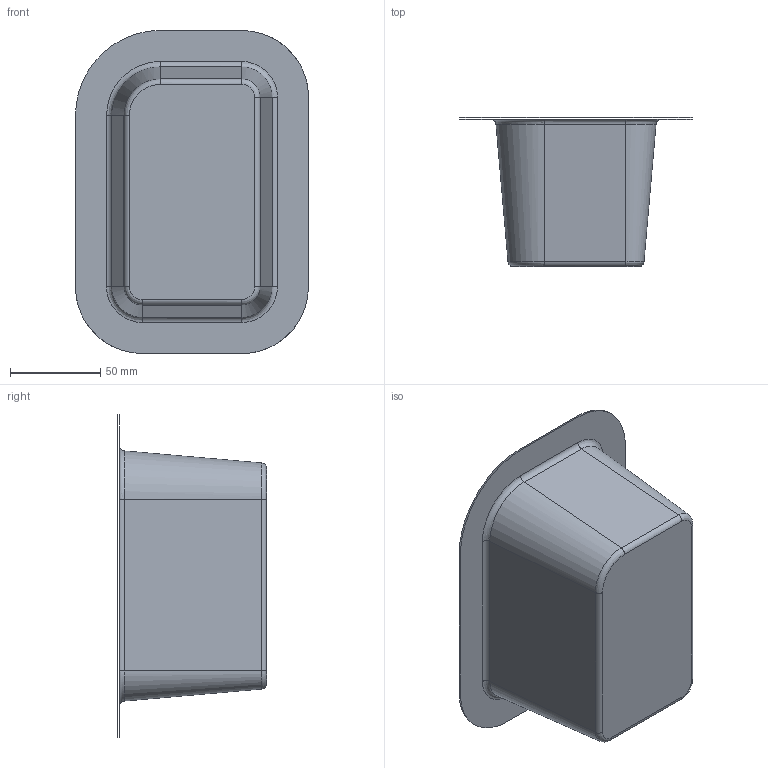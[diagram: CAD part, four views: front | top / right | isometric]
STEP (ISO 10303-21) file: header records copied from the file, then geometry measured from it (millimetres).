
FILE_DESCRIPTION(('CATIA V5 STEP Exchange'),'2;1');
FILE_NAME('C:\_Andres\UNIVERSIDAD\IQS\ASIGNATURAS\DAO\Controles\1617\c3\2inicio\Quiroga_Garcia_control3_v25.stp','2017-02-17T14:22:11+00:00',('none'),('none'),'CATIA Version 5-6 Release 2014 SP1 HF18','CATIA V5 STEP AP203','none');
FILE_SCHEMA(('CONFIG_CONTROL_DESIGN'));
Length unit declared in the file: millimetre
Products named in the file (1): Quiroga_Garcia_control3_v25
Bounding box: 129.29 x 82.69 x 179.29 mm (x, y, z)
Surface area: 72807.7 mm2 (no closed solid volume)
Topology: 0 solids, 2 shells, 27 faces, 80 edges, 57 vertices
Faces by surface type: bspline 16, cylinder 8, plane 3
Entity records: 1940 total; most frequent: CARTESIAN_POINT 1344, ORIENTED_EDGE 128, EDGE_CURVE 72, B_SPLINE_CURVE_WITH_KNOTS 54, DIRECTION 50, VERTEX_POINT 48, EDGE_LOOP 28, ADVANCED_FACE 27
